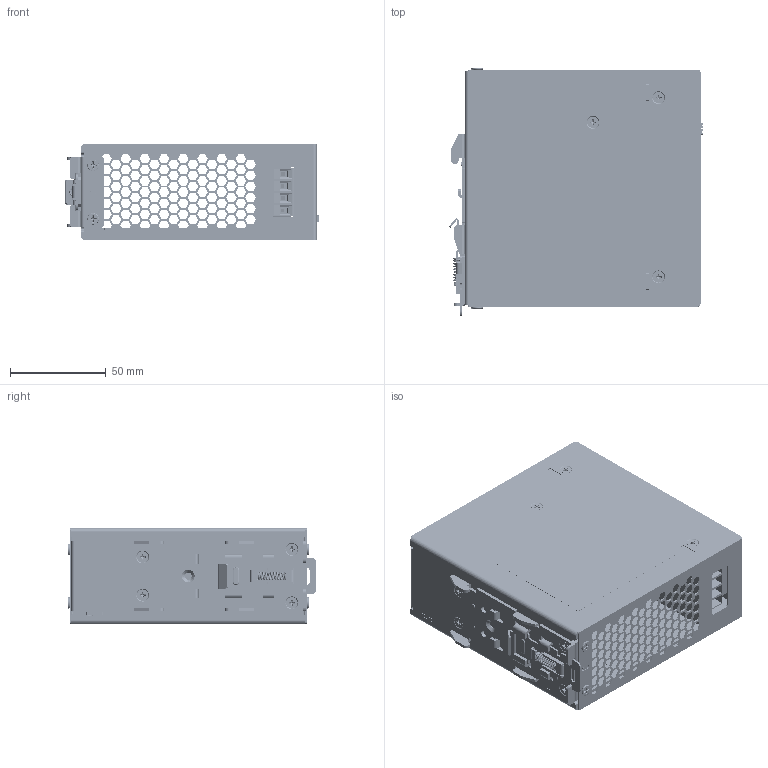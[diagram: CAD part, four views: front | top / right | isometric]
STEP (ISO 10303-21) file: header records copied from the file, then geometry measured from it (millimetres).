
FILE_DESCRIPTION((''),'2;1');
FILE_NAME('DRF-24V240W3GBA-PD01_ASM_10851_ASM','2022-05-14T',('Nut.Phor'),(''),'CREO PARAMETRIC BY PTC INC, 2015080','CREO PARAMETRIC BY PTC INC, 2015080','');
FILE_SCHEMA(('CONFIG_CONTROL_DESIGN'));
Products named in the file (30): 330399890205_2072_1; 330399890205_2072_2; 330399890205_2072_3; 330399890205_2072_ASM; 3240036TPS00_525; 3240035TPS00_81; 2948019400_870; LAYOUT_MAIN-BOARD_523; 3461381401_STANDOFF_L3_20; 2969817400_ADC-174_262; LAYOUT_ADC-171__268; 3460375301_34; 4PIN_1_2; KP04000306DAG_ASM_60_ASM; ASSY_ADC-174_171_ASM_4183_ASM; 307XXXXXXX-DINKLE_0138-5102_23; 307307817U_DEGSO_36; EE_VR_0604101318_6; LED_2306261431_16; ASSY_MAINBOARD_QLIQIII_3PH_ASM__ASM; 3100000600_24; 346654410304_73; 346008810000_13; 346202620000_19; ASSY_BASE-LATCH-SPRING_ASM_159_ASM; 326820910000_46; 3105039100_20; 326281500404_963; 330000057TPS00_866; DRF-24V240W3GBA-PD01_ASM_10851_ASM
Assembly tree (44 placements, depth 5):
  DRF-24V240W3GBA-PD01_ASM_10851_ASM
    330399890205_2072_ASM
      330399890205_2072_1
      330399890205_2072_2
      330399890205_2072_3
    3240036TPS00_525
    3240035TPS00_81
    ASSY_MAINBOARD_QLIQIII_3PH_ASM__ASM
      2948019400_870
      LAYOUT_MAIN-BOARD_523
      3461381401_STANDOFF_L3_20  x2
      ASSY_ADC-174_171_ASM_4183_ASM
        2969817400_ADC-174_262
        LAYOUT_ADC-171__268
        3460375301_34  x2
        KP04000306DAG_ASM_60_ASM  x2
          4PIN_1_2
      307XXXXXXX-DINKLE_0138-5102_23
      307307817U_DEGSO_36
      EE_VR_0604101318_6
      LED_2306261431_16
    3100000600_24  x10
    ASSY_BASE-LATCH-SPRING_ASM_159_ASM
      346654410304_73
      346008810000_13
      346202620000_19
    326820910000_46
    3105039100_20  x4
    326281500404_963
    330000057TPS00_866
Bounding box: 132.94 x 130 x 50.08 mm (x, y, z)
Volume: 123948.2 mm3; surface area: 264502 mm2
Topology: 37 solids, 37 shells, 8826 faces, 24810 edges, 16022 vertices
Faces by surface type: plane 5456, cylinder 1897, extrusion 773, bspline 302, cone 228, torus 154, sphere 16
Entity records: 267926 total; most frequent: CARTESIAN_POINT 65772, ORIENTED_EDGE 35436, DIRECTION 29712, EDGE_CURVE 17718, VECTOR 13668, LINE 12907, PRESENTATION_STYLE_ASSIGNMENT 12858, STYLED_ITEM 12744
